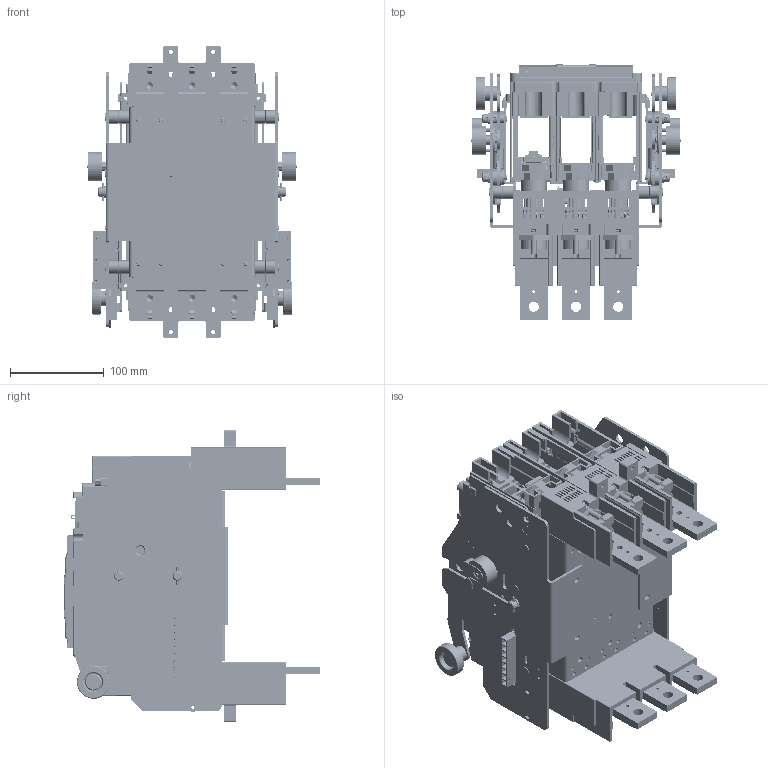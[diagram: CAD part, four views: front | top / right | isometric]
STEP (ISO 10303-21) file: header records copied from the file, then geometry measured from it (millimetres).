
FILE_DESCRIPTION (( 'STEP AP203' ), '1' );
FILE_NAME ('CH2-630³é³öÊ½-3P.STEP', '2025-04-08T00:35:15', ( 'WP20220718' ), ( '' ), 'SwSTEP 2.0', 'SolidWorks 2017', '' );
FILE_SCHEMA (( 'CONFIG_CONTROL_DESIGN' ));
Length unit declared in the file: millimetre
Products named in the file (60): WF8.205.719粣; CHUANGJINCHUTAO_2_1-1; WF8.510.517; WL8.024.770; WL8.100.198; PRT0003_AF1_1_1-1; WF8.024.769; 酘耜啣ㄗTHM5-630ㄘ; WF8.724.500; 霾捇親630諉盄芛; WL8.300.106; WL8.100.258; WF8.724.501奪; WF8.310.542裔; 2WF8.135.507槳啣; WL8.235.185; WF8.205.717; WL8.100.153; WF8.724.502奪; WF8.253.534; 2WL5.024.161; WL8.551.034; WF8.205.714粣; WL8.100.436盓厥璃; 3WF8.253.532; WF8.100.680蜊; 酘槳啣(519粣); 3WF8.253.533忒梟; WF8.969.504; 衵耜啣ㄗTHM5-630ㄘ; CH2-630喲堤宒-3P; WL8.570.056; THM5-630奻; WF8.205.713粣; THM5-630笢; 3WF8.024.779(峚雄羲壽); M3-6170; 霾捇親630揖え; 霾捇親630價釱; WF8.100.679蜊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
Assembly tree (158 placements, depth 5):
  CH2-630喲堤宒-3P
    WL8.024.400
    霾捇親630價釱  x2
      2WL5.024.161
      霾捇親630諉盄芛
        霾捇親630揖え
          WL8.100.258
          WL8.551.034  x20
      WL8.300.106
      WL8.325.037
    酘槳啣(519粣)
      2WF8.135.507槳啣
      3WF8.253.537忒梟
      WF8.205.713粣
      WF8.205.714粣
      WF8.205.720  x2
      忒梟酘
        3WF8.253.532
        WF8.253.534
        WF8.205.716粣
        WF8.969.504  x2
      WF8.724.502奪
      WF8.205.719粣
      WL8.205.519  x2
      媼棒
        WF8.310.543
        WL8.024.770
        WF8.510.517  x8
      M3-6170  x2
    衵槳啣(519粣)
      2WF8.135.506槳啣
      WF8.205.713粣
      WF8.205.714粣
      WF8.205.720  x2
      3WF8.253.533忒梟
      忒梟衵
        3WF8.253.532
        WF8.253.534
        WF8.205.716粣
        WF8.969.504  x2
      WF8.205.719粣
      WF8.724.502奪
      WL8.205.519  x2
      媼棒
        WF8.310.543
        WL8.024.770
        WF8.510.517  x8
      M3-6170  x2
    THM5-630_ASM
      THM5-630奻
      THM5-630笢
      PRT0003_AF1_1_1-1
      CHUANGJINCHUTAO_2_1-1
      8tzd_024_1051_suliaojian
    衵耜啣ㄗTHM5-630ㄘ
      衵耜啣ㄗTHM5-630ㄘ
      WF8.205.717  x2
      幗渀2.5X20-2-1  x4
      WF8.724.500  x2
      WF8.724.501奪
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Bounding box: 223 x 272.95 x 312 mm (x, y, z)
Volume: 1558789.1 mm3; surface area: 1438550.5 mm2
Topology: 267 solids, 293 shells, 16150 faces, 45317 edges, 29639 vertices
Faces by surface type: plane 8536, cylinder 6020, bspline 885, cone 407, sphere 173, torus 129
Entity records: 375746 total; most frequent: CARTESIAN_POINT 140585, ORIENTED_EDGE 50214, DIRECTION 41311, EDGE_CURVE 25963, VERTEX_POINT 17168, VECTOR 16491, LINE 16491, AXIS2_PLACEMENT_3D 12410
